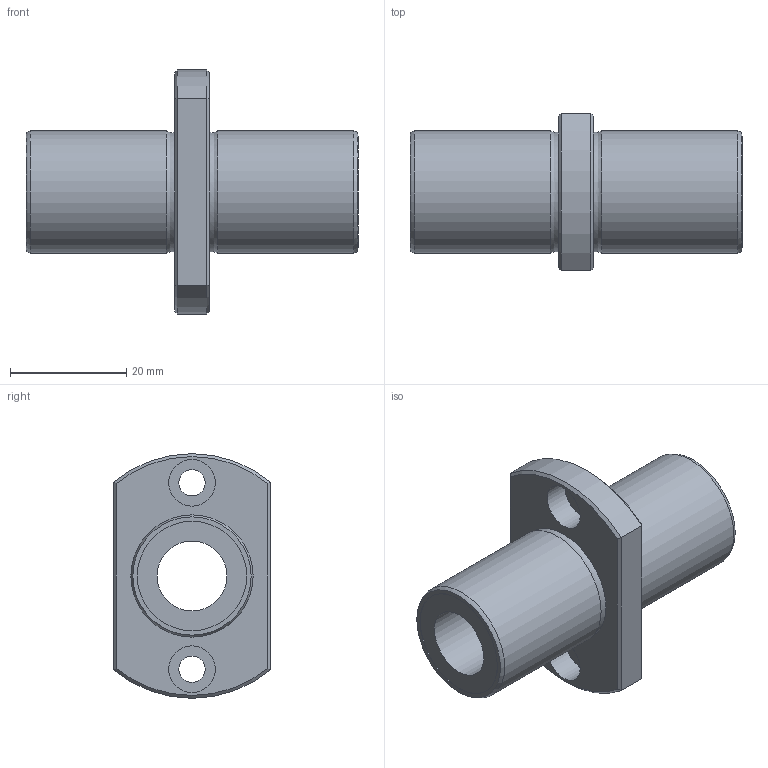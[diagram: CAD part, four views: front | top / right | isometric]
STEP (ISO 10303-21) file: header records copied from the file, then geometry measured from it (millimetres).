
FILE_DESCRIPTION((''),'2;1');
FILE_NAME('D:\製品 (図面)\カタログ用3D\リニアベアリング関連\STEP形式\LFDTC\LFDTC12.stp','2010-06-04T08:39:33',('Tsuchiya'),(''),'Autodesk Inventor 10','Autodesk Inventor 10','');
FILE_SCHEMA(('AUTOMOTIVE_DESIGN { 1 0 10303 214 1 1 1 1 }'));
Length unit declared in the file: millimetre
Products named in the file (1): LFDTC12
Bounding box: 57 x 27 x 42 mm (x, y, z)
Volume: 16912.9 mm3; surface area: 8255.5 mm2
Topology: 1 solids, 1 shells, 33 faces, 63 edges, 38 vertices
Faces by surface type: plane 14, cylinder 11, cone 4, torus 2, bspline 2
Full cylindrical faces by diameter (mm): 4.5 x2, 8 x2, 12 x1, 18.8 x2, 21 x2
Entity records: 925 total; most frequent: CARTESIAN_POINT 270, DIRECTION 136, ORIENTED_EDGE 100, AXIS2_PLACEMENT_3D 62, EDGE_LOOP 58, EDGE_CURVE 50, VERTEX_POINT 38, FACE_OUTER_BOUND 33
